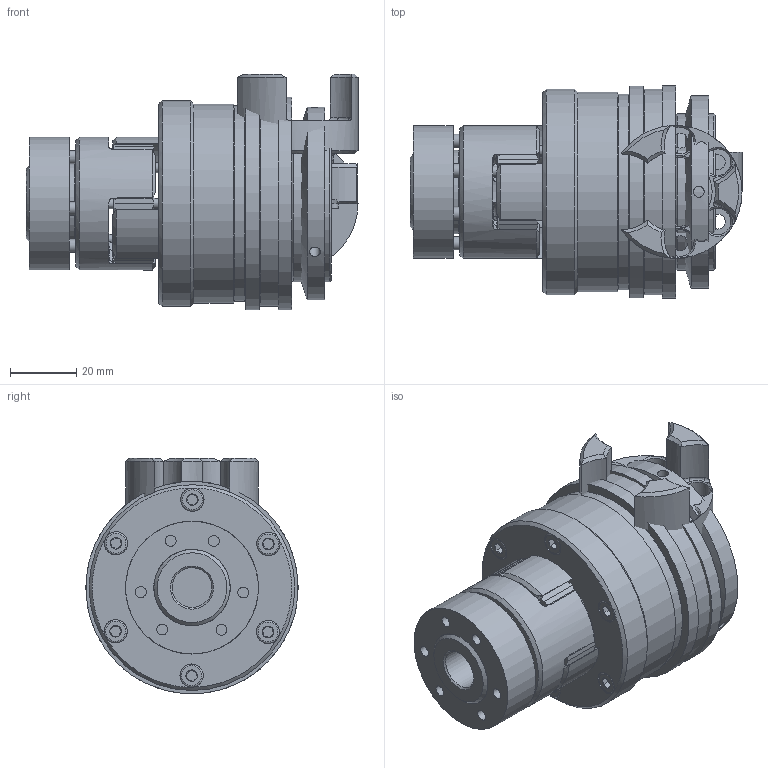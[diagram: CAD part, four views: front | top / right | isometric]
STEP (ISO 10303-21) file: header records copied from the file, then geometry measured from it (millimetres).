
FILE_DESCRIPTION( ( 'Unknown' ), '1' );
FILE_NAME( 'C:/Dokumente und Einstellungen/Sven/Desktop/hp kbk/E-AI/KBK EAI-19-93.stp', 'Unknown', ( 'Unknown' ), ( 'Unknown' ), 'XStep 1.0', 'Unknown', ' ' );
FILE_SCHEMA( ( 'automotive_design' ) );
Length unit declared in the file: millimetre
Products named in the file (17): Assem1; Assem2; ball_bearing_-_6005_0_01_1; ball_bearing_-_6005_0_02_1; ball_bearing_-_6005_0_03_1; Stellring 30_1; Druckring 30_1; a_25_1; Flansch L30_1; ISO EN DIN 4762_M4x16_1; KBE3-19_Druckring_1; KBK L-I-30 Grundkörper_1; Konusbuchse KBK L-I-30_1; din_en_24017_m5x16_1; Elastomerflansch 19_1; Zahnkranz_19_Standard_1; KBE 3 - 19_Nabe
Bounding box: 100 x 64 x 71 mm (x, y, z)
Volume: 289838 mm3; surface area: 165745.4 mm2
Topology: 49 solids, 49 shells, 1284 faces, 2814 edges, 1753 vertices
Faces by surface type: plane 465, cylinder 362, cone 317, torus 92, bspline 48
Full cylindrical faces by diameter (mm): 2 x4, 3 x12, 3.242 x18, 3.3 x18, 3.5 x13, 4 x26, 4.134 x18, 4.2 x12, 4.5 x12, 5 x7, 5.5 x12, 6.88 x7, 7 x25, 8 x14, 12 x6, 18 x4, 22 x2, 23.9 x2, 24.4 x2, 25 x7, 25.1 x2, 32 x6, 34 x2, 38 x4, 39.5 x2, 40 x6, 40.3 x6, 47 x7, 52 x2, 58 x2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
Entity records: 13238 total; most frequent: CARTESIAN_POINT 3360, DIRECTION 2064, ORIENTED_EDGE 1650, AXIS2_PLACEMENT_3D 947, EDGE_CURVE 825, EDGE_LOOP 714, VERTEX_POINT 597, FACE_OUTER_BOUND 560
